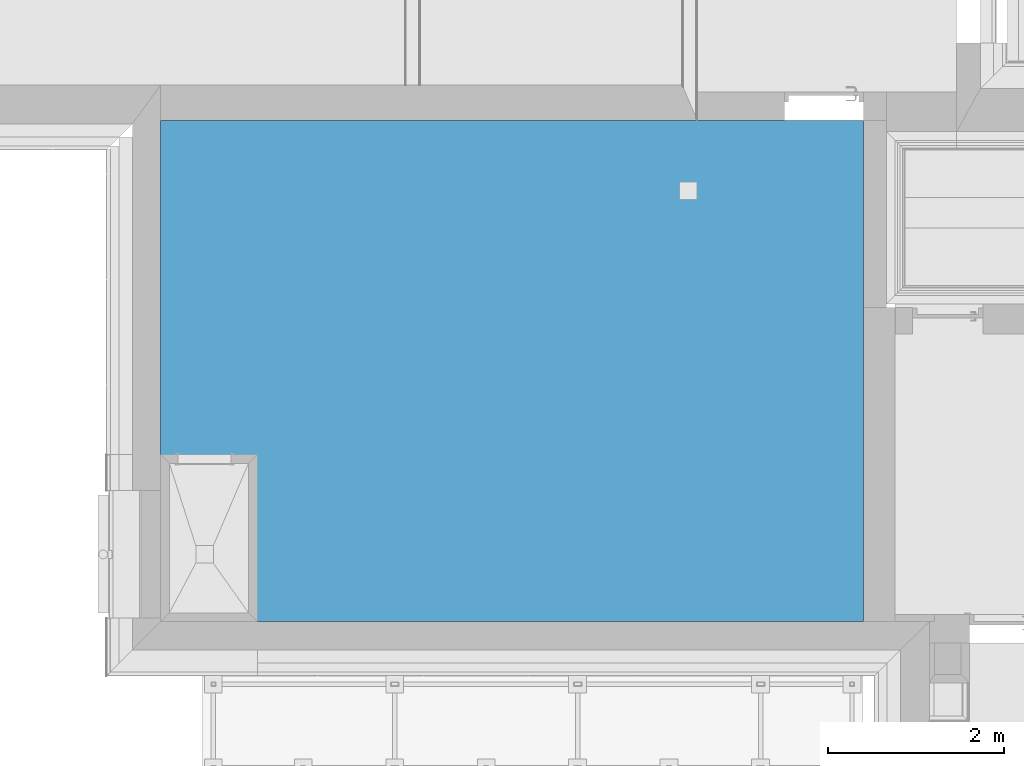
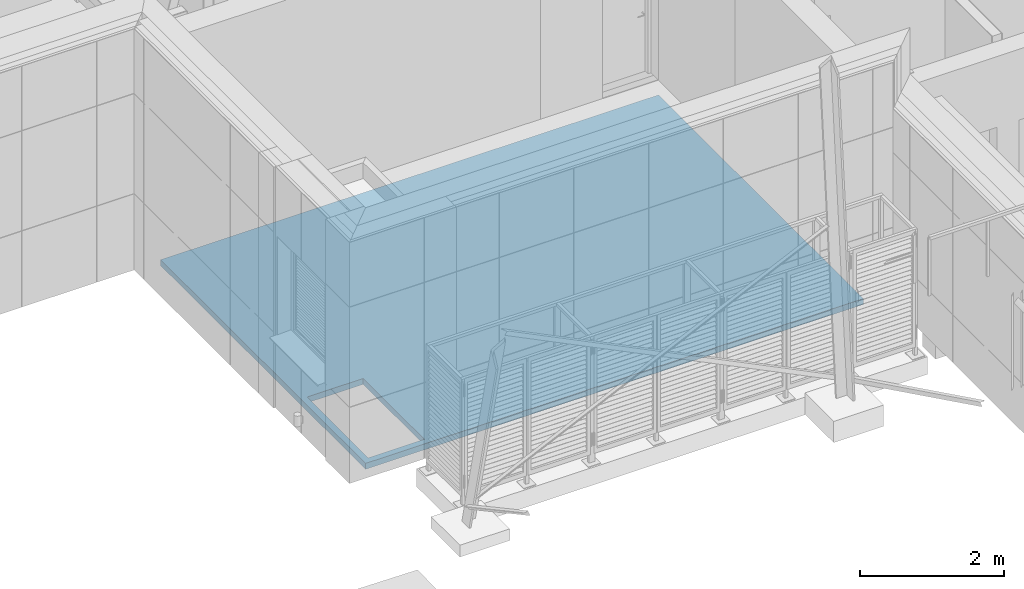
# One storey, part 114 of 418: 1 building element part, 1 opening, 1 element without a shape of its own.
"""IFC2X3 building model written with IfcOpenShell, lengths in millimetres."""

import ifcopenshell
import ifcopenshell.guid

model = None  # the IFC model being written
_history = None  # IfcOwnerHistory: only IFC2X3 demands one
_inside = {}  # id of a spatial element -> (the spatial element, [elements in it])
_under = {}  # id of a project, library or spatial element -> (it, [spatial elements below it])
_declared = {}  # id of a project -> (the project, [libraries it declares])
_typed = {}  # id of a type object -> (the type object, [elements of that type])
_made_of = {}  # id of a material, layer set ... -> (it, [elements and type objects made of it])


def new_model(schema):
    """Start an empty IFC model of exactly this schema.

    Asked for "IFC4X3", IfcOpenShell would pick the latest addendum, in which some entities
    have other attributes; the version numbers below select the first issue.
    IFC2X3 requires an IfcOwnerHistory on every rooted entity: one is made here for all.
    """
    global model, _history
    if schema == "IFC4X3":
        model = ifcopenshell.file(schema_version=(4, 3, 0, 0))
    else:
        model = ifcopenshell.file(schema=schema)
    _inside.clear()
    _under.clear()
    _declared.clear()
    _typed.clear()
    _made_of.clear()
    _history = None
    if model.schema == "IFC2X3":
        org = make("IfcOrganization", Name="unknown")
        user = make(
            "IfcPersonAndOrganization",
            ThePerson=make("IfcPerson", FamilyName="unknown"),
            TheOrganization=org,
        )
        app = make(
            "IfcApplication",
            ApplicationDeveloper=org,
            Version="unknown",
            ApplicationFullName="unknown",
            ApplicationIdentifier="unknown",
        )
        _history = make(
            "IfcOwnerHistory",
            OwningUser=user,
            OwningApplication=app,
            ChangeAction="ADDED",
            CreationDate=0,
        )
    return model


def make(cls, **values):
    """One entity of the class cls with the attributes given. An attribute that is None is left unset."""
    return model.create_entity(
        cls, **{name: value for name, value in values.items() if value is not None}
    )


def entity(cls, *values):
    """Any entity or typed value of the class cls, its attributes in the order of the schema. None: left unset."""
    e = model.create_entity(cls)
    for i, value in enumerate(values):
        if value is not None:
            e[i] = value
    return e


def rooted(cls, **values):
    """An entity with a GlobalId (a new one), such as an element, a storey or a relation."""
    return make(cls, GlobalId=ifcopenshell.guid.new(), OwnerHistory=_history, **values)


def si_unit(unit_type, name, prefix=None):
    """IfcSIUnit, for example si_unit("LENGTHUNIT", "METRE", prefix="MILLI")."""
    return make("IfcSIUnit", UnitType=unit_type, Prefix=prefix, Name=name)


def converted_unit(unit_type, name, factor, base, dimensions=None, offset=None):
    """IfcConversionBasedUnit, such as the inch: factor (a typed value) times the base unit."""
    return make(
        "IfcConversionBasedUnit"
        if offset is None
        else "IfcConversionBasedUnitWithOffset",
        ConversionOffset=offset,
        Dimensions=None
        if dimensions is None
        else entity("IfcDimensionalExponents", *dimensions),
        UnitType=unit_type,
        Name=name,
        ConversionFactor=make(
            "IfcMeasureWithUnit", ValueComponent=factor, UnitComponent=base
        ),
    )


def derived_unit(unit_type, elements):
    """IfcDerivedUnit: a product of units, each with its exponent."""
    return make(
        "IfcDerivedUnit",
        Elements=[
            make("IfcDerivedUnitElement", Unit=unit, Exponent=power)
            for unit, power in elements
        ],
        UnitType=unit_type,
    )


def money_unit(currency):
    """IfcMonetaryUnit."""
    return make("IfcMonetaryUnit", Currency=currency)


def assignment(units):
    """IfcUnitAssignment: the units of a project."""
    return None if units is None else make("IfcUnitAssignment", Units=units)


def point(xyz):
    """IfcCartesianPoint."""
    return None if xyz is None else make("IfcCartesianPoint", Coordinates=xyz)


def direction(xyz):
    """IfcDirection."""
    return None if xyz is None else make("IfcDirection", DirectionRatios=xyz)


def frame(location, z_axis=None, x_axis=None):
    """IfcAxis2Placement3D, a coordinate frame: its origin and axes. An axis left out is left unset."""
    return make(
        "IfcAxis2Placement3D",
        Location=point(location),
        Axis=direction(z_axis),
        RefDirection=direction(x_axis),
    )


def origin_with_axes():
    """The frame at (0, 0, 0) with the z axis (0, 0, 1) and the x axis (1, 0, 0) written out."""
    return frame((0.0, 0.0, 0.0), z_axis=(0.0, 0.0, 1.0), x_axis=(1.0, 0.0, 0.0))


def place(relative_to, where):
    """IfcLocalPlacement: puts the frame where relative to a parent placement (None: the world)."""
    return make(
        "IfcLocalPlacement", PlacementRelTo=relative_to, RelativePlacement=where
    )


def context(
    kind, dimensions, precision=None, world=None, true_north=None, identifier=None
):
    """IfcGeometricRepresentationContext, for example the 3D "Model" context."""
    return make(
        "IfcGeometricRepresentationContext",
        ContextIdentifier=identifier,
        ContextType=kind,
        CoordinateSpaceDimension=dimensions,
        Precision=precision,
        WorldCoordinateSystem=world,
        TrueNorth=true_north,
    )


def subcontext(parent, identifier, kind, view, scale=None):
    """IfcGeometricRepresentationSubContext, for example "Body" below "Model"."""
    return make(
        "IfcGeometricRepresentationSubContext",
        ContextIdentifier=identifier,
        ContextType=kind,
        ParentContext=parent,
        TargetScale=scale,
        TargetView=view,
    )


def project(units=None, contexts=None):
    """IfcProject with its units and contexts."""
    return rooted(
        "IfcProject",
        Name="project",
        RepresentationContexts=contexts,
        UnitsInContext=assignment(units),
    )


def spatial(cls, under=None, at=None, **own):
    """A site, building, storey or space (cls), placed at a placement, below another one or the project."""
    s = rooted(cls, ObjectPlacement=at, **own)
    if under is not None:
        _under.setdefault(under.id(), (under, []))[1].append(s)
    return s


def polyline(points):
    """IfcPolyline through the points."""
    return make("IfcPolyline", Points=[point(p) for p in points])


def outline(outer, holes=None, kind="AREA"):
    """IfcArbitraryClosedProfileDef: a profile drawn as a closed curve; with holes, ...WithVoids."""
    if holes is None:
        return make("IfcArbitraryClosedProfileDef", ProfileType=kind, OuterCurve=outer)
    return make(
        "IfcArbitraryProfileDefWithVoids",
        ProfileType=kind,
        OuterCurve=outer,
        InnerCurves=holes,
    )


def extrude(swept, where, along, depth):
    """IfcExtrudedAreaSolid: the profile swept, set in the frame where, extruded along a direction by depth."""
    return make(
        "IfcExtrudedAreaSolid",
        SweptArea=swept,
        Position=where,
        ExtrudedDirection=direction(along),
        Depth=depth,
    )


def boolean(op, a, b):
    """IfcBooleanResult of two solids."""
    return make("IfcBooleanResult", Operator=op, FirstOperand=a, SecondOperand=b)


def faces_of(points, faces, orient=None, outer=None):
    """IfcFace entities. A face is a list of loops; a loop is a list of indices into points, from 0.

    orient and outer hold one flag for each loop. By default every Orientation is true, the
    first loop of a face is its IfcFaceOuterBound and the others are IfcFaceBound.
    """
    made = []
    for i, loops in enumerate(faces):
        bounds = []
        for j, loop in enumerate(loops):
            is_outer = j == 0 if outer is None else outer[i][j]
            bounds.append(
                make(
                    "IfcFaceOuterBound" if is_outer else "IfcFaceBound",
                    Bound=make("IfcPolyLoop", Polygon=[points[k] for k in loop]),
                    Orientation=True if orient is None else orient[i][j],
                )
            )
        made.append(make("IfcFace", Bounds=bounds))
    return made


def faceted_brep(points, faces, orient=None, outer=None, voids=None):
    """IfcFacetedBrep: a solid bounded by flat faces; with voids (closed shells), ...WithVoids."""
    shared = [point(p) for p in points]
    hull = make("IfcClosedShell", CfsFaces=faces_of(shared, faces, orient, outer))
    if voids is None:
        return make("IfcFacetedBrep", Outer=hull)
    return make(
        "IfcFacetedBrepWithVoids",
        Outer=hull,
        Voids=[
            make(cls, CfsFaces=faces_of(shared, fs, o, b)) for cls, fs, o, b in voids
        ],
    )


def shape(context_of_items, identifier, shape_type, items):
    """IfcShapeRepresentation: the items that make up one representation, for example the "Body"."""
    return make(
        "IfcShapeRepresentation",
        ContextOfItems=context_of_items,
        RepresentationIdentifier=identifier,
        RepresentationType=shape_type,
        Items=items,
    )


def material(Name=None, Category=None):
    """IfcMaterial."""
    return make("IfcMaterial", Name=Name, Category=Category)


def made_of(thing, what):
    """Note that an element or type object is made of a material, layer set ...; save() writes the relation."""
    if what is not None:
        _made_of.setdefault(what.id(), (what, []))[1].append(thing)
    return thing


def type_object(cls, material=None, **own):
    """A type object (cls), such as IfcWallType, which elements share."""
    return made_of(rooted(cls, **own), material)


def element(
    cls,
    number,
    at=None,
    inside=None,
    cuts=None,
    type_object=None,
    material=None,
    context=None,
    identifier="Body",
    shape_type=None,
    held_by="IfcProductDefinitionShape",
    body=None,
    shapes=None,
    **own,
):
    """One element of the class cls, such as IfcWall. Its Tag is "e" and its number.

    at: its placement. inside: the storey or other place that contains it. cuts: it is an
    opening in that element (IfcRelVoidsElement). A single representation is given by context,
    identifier, shape_type and body (its items); several are given by shapes. held_by: the class
    of the entity that holds the representations. save() writes the other relations.
    """
    e = rooted(cls, Tag="e%d" % number, ObjectPlacement=at, **own)
    if body is not None:
        shapes = [shape(context, identifier, shape_type, body)]
    if shapes is not None:
        e.Representation = make(held_by, Representations=shapes)
    if inside is not None:
        _inside.setdefault(inside.id(), (inside, []))[1].append(e)
    if cuts is not None:
        rooted(
            "IfcRelVoidsElement", RelatingBuildingElement=cuts, RelatedOpeningElement=e
        )
    if type_object is not None:
        _typed.setdefault(type_object.id(), (type_object, []))[1].append(e)
    return made_of(e, material)


def aggregate(whole, parts):
    """IfcRelAggregates: a whole, such as a stair, and the parts it consists of."""
    return rooted("IfcRelAggregates", RelatingObject=whole, RelatedObjects=parts)


def save(model, path):
    """Write the relations noted so far, then the file.

    IfcRelAggregates (storeys below a building ...), IfcRelContainedInSpatialStructure (elements
    in a storey), IfcRelDefinesByType, IfcRelAssociatesMaterial and IfcRelDeclares: one each for
    every whole, place, type object, material and project.
    """
    for whole, parts in _under.values():
        aggregate(whole, parts)
    for where, things in _inside.values():
        rooted(
            "IfcRelContainedInSpatialStructure",
            RelatedElements=things,
            RelatingStructure=where,
        )
    for kind, things in _typed.values():
        rooted("IfcRelDefinesByType", RelatedObjects=things, RelatingType=kind)
    for what, things in _made_of.values():
        rooted("IfcRelAssociatesMaterial", RelatedObjects=things, RelatingMaterial=what)
    for by, libraries in _declared.values():
        rooted("IfcRelDeclares", RelatingContext=by, RelatedDefinitions=libraries)
    model.write(path)


model = new_model("IFC2X3")

# Units and contexts
model_context = context("Model", 3, precision=0.01, world=origin_with_axes(), true_north=direction((0.0, 1.0)))
body_context = subcontext(model_context, "Body", "Model", "MODEL_VIEW")
ifc_project = project(units=[si_unit("LENGTHUNIT", "METRE", prefix="MILLI"), si_unit("AREAUNIT", "SQUARE_METRE"), si_unit("VOLUMEUNIT", "CUBIC_METRE"), converted_unit("PLANEANGLEUNIT", "DEGREE", entity("IfcPlaneAngleMeasure", 0.0174532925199), si_unit("PLANEANGLEUNIT", "RADIAN"), dimensions=[0, 0, 0, 0, 0, 0, 0]), si_unit("SOLIDANGLEUNIT", "STERADIAN"), money_unit("EUR"), converted_unit("TIMEUNIT", "Year", entity("IfcTimeMeasure", 31556926.0), si_unit("TIMEUNIT", "SECOND"), dimensions=[0, 0, 1, 0, 0, 0, 0]), si_unit("MASSUNIT", "GRAM", prefix="KILO"), si_unit("THERMODYNAMICTEMPERATUREUNIT", "DEGREE_CELSIUS"), si_unit("LUMINOUSINTENSITYUNIT", "LUMEN"), si_unit("ENERGYUNIT", "JOULE", prefix="MEGA"), derived_unit("THERMALCONDUCTANCEUNIT", [(si_unit("POWERUNIT", "WATT"), 1), (si_unit("LENGTHUNIT", "METRE"), -1), (si_unit("THERMODYNAMICTEMPERATUREUNIT", "KELVIN"), -1)]), derived_unit("SPECIFICHEATCAPACITYUNIT", [(si_unit("ENERGYUNIT", "JOULE"), 1), (si_unit("MASSUNIT", "GRAM", prefix="KILO"), -1), (si_unit("THERMODYNAMICTEMPERATUREUNIT", "KELVIN"), -1)]), derived_unit("MASSDENSITYUNIT", [(si_unit("MASSUNIT", "GRAM", prefix="KILO"), 1), (si_unit("VOLUMEUNIT", "CUBIC_METRE"), -1)])], contexts=[model_context])

# Site, building, storey
site_placement = place(None, origin_with_axes())
site = spatial("IfcSite", under=ifc_project, at=site_placement, Name="Paldiski mnt 245/1, Tallinn, Harjumaa", CompositionType="COMPLEX")
building_placement = place(site_placement, origin_with_axes())
building = spatial("IfcBuilding", under=site, at=building_placement, Name="RKAS Hoone üldnimetus (kasutust iseloomustav) -> IFC Project Manager -> SOLIBRI", CompositionType="ELEMENT")
storey_placement = place(building_placement, origin_with_axes())
storey = spatial("IfcBuildingStorey", under=building, at=storey_placement, Name="Esimene korrus", CompositionType="ELEMENT", Elevation=0.0)

# Slab, opening, building element part
slab_type = type_object("IfcSlabType", Name="AP-01 350", PredefinedType="NOTDEFINED")
slab_placement = place(storey_placement, frame((-56390.0, 130.000000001, 0.0), z_axis=(0.0, 0.0, 1.0), x_axis=(1.0, 0.0, 0.0)))
slab = element("IfcSlab", 1, at=slab_placement, inside=storey, type_object=slab_type, Name="AP-01", PredefinedType="NOTDEFINED")
opening_placement = place(slab_placement, frame((100.0, 1799.99992126, 0.0), z_axis=(0.0, 0.0, 1.0), x_axis=(0.0, -1.0, 0.0)))
element("IfcOpeningElement", 2, at=opening_placement, cuts=slab, Name="Slab Opening", context=body_context, shape_type="SweptSolid", body=[
    extrude(outline(polyline([(0.0, 0.0), (1699.99992126, 0.0), (1699.99992126, 900.000023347), (0.0, 900.000023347), (0.0, 0.0)])), frame((0.0, 0.0, -350.0), z_axis=(0.0, 0.0, 1.0), x_axis=(1.0, 0.0, 0.0)), (0.0, 0.0, 1.0), 350.0),
])
ifc_material = material(Name="EPS 200")
building_element_part_placement = place(slab_placement, origin_with_axes())
building_element_part = element("IfcBuildingElementPart", 3, at=building_element_part_placement, material=ifc_material, Name="EPS 200", context=body_context, shape_type="CSG", body=[
    boolean("DIFFERENCE", extrude(outline(polyline([(0.0, 0.0), (7990.0, -1.84741111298e-10), (7990.0, 5700.0), (1.42108547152e-10, 5700.0), (0.0, 0.0)])), frame((0.0, 0.0, -350.0), z_axis=(0.0, 0.0, 1.0), x_axis=(1.0, 0.0, 0.0)), (0.0, 0.0, 1.0), 100.0), faceted_brep([(5900.0, 4796.74087395, 0.0), (6100.0, 4796.74087395, 0.0), (6100.0, 4996.74087395, 0.0), (5900.0, 4996.74087395, 0.0), (5900.0, 4796.74087395, -15.0), (6100.0, 4796.74087395, -15.0), (6100.0, 4996.74087395, -15.0), (5900.0, 4996.74087395, -15.0), (5904.0, 4800.74087395, -15.0), (5924.5, 4800.74087395, -15.0), (5924.5, 4821.24087395, -15.0), (5924.5, 4825.24087395, -15.0), (5924.5, 4845.74087395, -15.0), (5924.5, 4849.74087395, -15.0), (5924.5, 4870.24087395, -15.0), (5924.5, 4874.24087395, -15.0), (5924.5, 4894.74087395, -15.0), (5924.5, 4898.74087395, -15.0), (5924.5, 4919.24087395, -15.0), (5924.5, 4923.24087395, -15.0), (5924.5, 4943.74087395, -15.0), (5924.5, 4947.74087395, -15.0), (5924.5, 4968.24087395, -15.0), (5924.5, 4972.24087395, -15.0), (5924.5, 4992.74087395, -15.0), (5928.5, 4992.74087395, -15.0), (5928.5, 4972.24087395, -15.0), (5928.5, 4968.24087395, -15.0), (5928.5, 4947.74087395, -15.0), (5928.5, 4943.74087395, -15.0), (5928.5, 4923.24087395, -15.0), (5928.5, 4919.24087395, -15.0), (5928.5, 4898.74087395, -15.0), (5928.5, 4894.74087395, -15.0), (5928.5, 4874.24087395, -15.0), (5928.5, 4870.24087395, -15.0), (5928.5, 4849.74087395, -15.0), (5928.5, 4845.74087395, -15.0), (5928.5, 4825.24087395, -15.0), (5928.5, 4821.24087395, -15.0), (5928.5, 4800.74087395, -15.0), (5949.0, 4800.74087395, -15.0), (5949.0, 4821.24087395, -15.0), (5949.0, 4825.24087395, -15.0), (5949.0, 4845.74087395, -15.0), (5949.0, 4849.74087395, -15.0), (5949.0, 4870.24087395, -15.0), (5949.0, 4874.24087395, -15.0), (5949.0, 4894.74087395, -15.0), (5949.0, 4898.74087395, -15.0), (5949.0, 4919.24087395, -15.0), (5949.0, 4923.24087395, -15.0), (5949.0, 4943.74087395, -15.0), (5949.0, 4947.74087395, -15.0), (5949.0, 4968.24087395, -15.0), (5949.0, 4972.24087395, -15.0), (5949.0, 4992.74087395, -15.0), (5953.0, 4992.74087395, -15.0), (5953.0, 4972.24087395, -15.0), (5953.0, 4968.24087395, -15.0), (5953.0, 4947.74087395, -15.0), (5953.0, 4943.74087395, -15.0), (5953.0, 4923.24087395, -15.0), (5953.0, 4919.24087395, -15.0), (5953.0, 4898.74087395, -15.0), (5953.0, 4894.74087395, -15.0), (5953.0, 4874.24087395, -15.0), (5953.0, 4870.24087395, -15.0), (5953.0, 4849.74087395, -15.0), (5953.0, 4845.74087395, -15.0), (5953.0, 4825.24087395, -15.0), (5953.0, 4821.24087395, -15.0), (5953.0, 4800.74087395, -15.0), (5973.5, 4800.74087395, -15.0), (5973.5, 4821.24087395, -15.0), (5973.5, 4825.24087395, -15.0), (5973.5, 4845.74087395, -15.0), (5973.5, 4849.74087395, -15.0), (5973.5, 4870.24087395, -15.0), (5973.5, 4874.24087395, -15.0), (5973.5, 4894.74087395, -15.0), (5973.5, 4898.74087395, -15.0), (5973.5, 4919.24087395, -15.0), (5973.5, 4923.24087395, -15.0), (5973.5, 4943.74087395, -15.0), (5973.5, 4947.74087395, -15.0), (5973.5, 4968.24087395, -15.0), (5973.5, 4972.24087395, -15.0), (5973.5, 4992.74087395, -15.0), (5977.5, 4992.74087395, -15.0), (5977.5, 4972.24087395, -15.0), (5977.5, 4968.24087395, -15.0), (5977.5, 4947.74087395, -15.0), (5977.5, 4943.74087395, -15.0), (5977.5, 4923.24087395, -15.0), (5977.5, 4919.24087395, -15.0), (5977.5, 4898.74087395, -15.0), (5977.5, 4894.74087395, -15.0), (5977.5, 4874.24087395, -15.0), (5977.5, 4870.24087395, -15.0), (5977.5, 4849.74087395, -15.0), (5977.5, 4845.74087395, -15.0), (5977.5, 4825.24087395, -15.0), (5977.5, 4821.24087395, -15.0), (5977.5, 4800.74087395, -15.0), (5998.0, 4800.74087395, -15.0), (5998.0, 4821.24087395, -15.0), (5998.0, 4825.24087395, -15.0), (5998.0, 4845.74087395, -15.0), (5998.0, 4849.74087395, -15.0), (5998.0, 4870.24087395, -15.0), (5998.0, 4874.24087395, -15.0), (5998.0, 4894.74087395, -15.0), (5998.0, 4898.74087395, -15.0), (5998.0, 4919.24087395, -15.0), (5998.0, 4923.24087395, -15.0), (5998.0, 4943.74087395, -15.0), (5998.0, 4947.74087395, -15.0), (5998.0, 4968.24087395, -15.0), (5998.0, 4972.24087395, -15.0), (5998.0, 4992.74087395, -15.0), (6002.0, 4992.74087395, -15.0), (6002.0, 4972.24087395, -15.0), (6002.0, 4968.24087395, -15.0), (6002.0, 4947.74087395, -15.0), (6002.0, 4943.74087395, -15.0), (6002.0, 4923.24087395, -15.0), (6002.0, 4919.24087395, -15.0), (6002.0, 4898.74087395, -15.0), (6002.0, 4894.74087395, -15.0), (6002.0, 4874.24087395, -15.0), (6002.0, 4870.24087395, -15.0), (6002.0, 4849.74087395, -15.0), (6002.0, 4845.74087395, -15.0), (6002.0, 4825.24087395, -15.0), (6002.0, 4821.24087395, -15.0), (6002.0, 4800.74087395, -15.0), (6022.5, 4800.74087395, -15.0), (6022.5, 4821.24087395, -15.0), (6022.5, 4825.24087395, -15.0), (6022.5, 4845.74087395, -15.0), (6022.5, 4849.74087395, -15.0), (6022.5, 4870.24087395, -15.0), (6022.5, 4874.24087395, -15.0), (6022.5, 4894.74087395, -15.0), (6022.5, 4898.74087395, -15.0), (6022.5, 4919.24087395, -15.0), (6022.5, 4923.24087395, -15.0), (6022.5, 4943.74087395, -15.0), (6022.5, 4947.74087395, -15.0), (6022.5, 4968.24087395, -15.0), (6022.5, 4972.24087395, -15.0), (6022.5, 4992.74087395, -15.0), (6026.5, 4992.74087395, -15.0), (6026.5, 4972.24087395, -15.0), (6026.5, 4968.24087395, -15.0), (6026.5, 4947.74087395, -15.0), (6026.5, 4943.74087395, -15.0), (6026.5, 4923.24087395, -15.0), (6026.5, 4919.24087395, -15.0), (6026.5, 4898.74087395, -15.0), (6026.5, 4894.74087395, -15.0), (6026.5, 4874.24087395, -15.0), (6026.5, 4870.24087395, -15.0), (6026.5, 4849.74087395, -15.0), (6026.5, 4845.74087395, -15.0), (6026.5, 4825.24087395, -15.0), (6026.5, 4821.24087395, -15.0), (6026.5, 4800.74087395, -15.0), (6047.0, 4800.74087395, -15.0), (6047.0, 4821.24087395, -15.0), (6047.0, 4825.24087395, -15.0), (6047.0, 4845.74087395, -15.0), (6047.0, 4849.74087395, -15.0), (6047.0, 4870.24087395, -15.0), (6047.0, 4874.24087395, -15.0), (6047.0, 4894.74087395, -15.0), (6047.0, 4898.74087395, -15.0), (6047.0, 4919.24087395, -15.0), (6047.0, 4923.24087395, -15.0), (6047.0, 4943.74087395, -15.0), (6047.0, 4947.74087395, -15.0), (6047.0, 4968.24087395, -15.0), (6047.0, 4972.24087395, -15.0), (6047.0, 4992.74087395, -15.0), (6051.0, 4992.74087395, -15.0), (6051.0, 4972.24087395, -15.0), (6051.0, 4968.24087395, -15.0), (6051.0, 4947.74087395, -15.0), (6051.0, 4943.74087395, -15.0), (6051.0, 4923.24087395, -15.0), (6051.0, 4919.24087395, -15.0), (6051.0, 4898.74087395, -15.0), (6051.0, 4894.74087395, -15.0), (6051.0, 4874.24087395, -15.0), (6051.0, 4870.24087395, -15.0), (6051.0, 4849.74087395, -15.0), (6051.0, 4845.74087395, -15.0), (6051.0, 4825.24087395, -15.0), (6051.0, 4821.24087395, -15.0), (6051.0, 4800.74087395, -15.0), (6071.5, 4800.74087395, -15.0), (6071.5, 4821.24087395, -15.0), (6071.5, 4825.24087395, -15.0), (6071.5, 4845.74087395, -15.0), (6071.5, 4849.74087395, -15.0), (6071.5, 4870.24087395, -15.0), (6071.5, 4874.24087395, -15.0), (6071.5, 4894.74087395, -15.0), (6071.5, 4898.74087395, -15.0), (6071.5, 4919.24087395, -15.0), (6071.5, 4923.24087395, -15.0), (6071.5, 4943.74087395, -15.0), (6071.5, 4947.74087395, -15.0), (6071.5, 4968.24087395, -15.0), (6071.5, 4972.24087395, -15.0), (6071.5, 4992.74087395, -15.0), (6075.5, 4992.74087395, -15.0), (6075.5, 4972.24087395, -15.0), (6075.5, 4968.24087395, -15.0), (6075.5, 4947.74087395, -15.0), (6075.5, 4943.74087395, -15.0), (6075.5, 4923.24087395, -15.0), (6075.5, 4919.24087395, -15.0), (6075.5, 4898.74087395, -15.0), (6075.5, 4894.74087395, -15.0), (6075.5, 4874.24087395, -15.0), (6075.5, 4870.24087395, -15.0), (6075.5, 4849.74087395, -15.0), (6075.5, 4845.74087395, -15.0), (6075.5, 4825.24087395, -15.0), (6075.5, 4821.24087395, -15.0), (6075.5, 4800.74087395, -15.0), (6096.0, 4800.74087395, -15.0), (6096.0, 4821.24087395, -15.0), (6096.0, 4825.24087395, -15.0), (6096.0, 4845.74087395, -15.0), (6096.0, 4849.74087395, -15.0), (6096.0, 4870.24087395, -15.0), (6096.0, 4874.24087395, -15.0), (6096.0, 4894.74087395, -15.0), (6096.0, 4898.74087395, -15.0), (6096.0, 4919.24087395, -15.0), (6096.0, 4923.24087395, -15.0), (6096.0, 4943.74087395, -15.0), (6096.0, 4947.74087395, -15.0), (6096.0, 4968.24087395, -15.0), (6096.0, 4972.24087395, -15.0), (6096.0, 4992.74087395, -15.0), (5904.0, 4992.74087395, -15.0), (5904.0, 4972.24087395, -15.0), (5904.0, 4968.24087395, -15.0), (5904.0, 4947.74087395, -15.0), (5904.0, 4943.74087395, -15.0), (5904.0, 4923.24087395, -15.0), (5904.0, 4919.24087395, -15.0), (5904.0, 4898.74087395, -15.0), (5904.0, 4894.74087395, -15.0), (5904.0, 4874.24087395, -15.0), (5904.0, 4870.24087395, -15.0), (5904.0, 4849.74087395, -15.0), (5904.0, 4845.74087395, -15.0), (5904.0, 4825.24087395, -15.0), (5904.0, 4821.24087395, -15.0), (5904.0, 4800.74087395, -13.85), (5924.5, 4800.74087395, -13.85), (5924.5, 4821.24087395, -13.85), (5924.5, 4825.24087395, -13.85), (5924.5, 4845.74087395, -13.85), (5924.5, 4849.74087395, -13.85), (5924.5, 4870.24087395, -13.85), (5924.5, 4874.24087395, -13.85), (5924.5, 4894.74087395, -13.85), (5924.5, 4898.74087395, -13.85), (5924.5, 4919.24087395, -13.85), (5924.5, 4923.24087395, -13.85), (5924.5, 4943.74087395, -13.85), (5924.5, 4947.74087395, -13.85), (5924.5, 4968.24087395, -13.85), (5924.5, 4972.24087395, -13.85), (5924.5, 4992.74087395, -13.85), (5928.5, 4992.74087395, -13.85), (5928.5, 4972.24087395, -13.85), (5928.5, 4968.24087395, -13.85), (5928.5, 4947.74087395, -13.85), (5928.5, 4943.74087395, -13.85), (5928.5, 4923.24087395, -13.85), (5928.5, 4919.24087395, -13.85), (5928.5, 4898.74087395, -13.85), (5928.5, 4894.74087395, -13.85), (5928.5, 4874.24087395, -13.85), (5928.5, 4870.24087395, -13.85), (5928.5, 4849.74087395, -13.85), (5928.5, 4845.74087395, -13.85), (5928.5, 4825.24087395, -13.85), (5928.5, 4821.24087395, -13.85), (5928.5, 4800.74087395, -13.85), (5949.0, 4800.74087395, -13.85), (5949.0, 4821.24087395, -13.85), (5949.0, 4825.24087395, -13.85), (5949.0, 4845.74087395, -13.85), (5949.0, 4849.74087395, -13.85), (5949.0, 4870.24087395, -13.85), (5949.0, 4874.24087395, -13.85), (5949.0, 4894.74087395, -13.85), (5949.0, 4898.74087395, -13.85), (5949.0, 4919.24087395, -13.85), (5949.0, 4923.24087395, -13.85), (5949.0, 4943.74087395, -13.85), (5949.0, 4947.74087395, -13.85), (5949.0, 4968.24087395, -13.85), (5949.0, 4972.24087395, -13.85), (5949.0, 4992.74087395, -13.85), (5953.0, 4992.74087395, -13.85), (5953.0, 4972.24087395, -13.85), (5953.0, 4968.24087395, -13.85), (5953.0, 4947.74087395, -13.85), (5953.0, 4943.74087395, -13.85), (5953.0, 4923.24087395, -13.85), (5953.0, 4919.24087395, -13.85), (5953.0, 4898.74087395, -13.85), (5953.0, 4894.74087395, -13.85), (5953.0, 4874.24087395, -13.85), (5953.0, 4870.24087395, -13.85), (5953.0, 4849.74087395, -13.85), (5953.0, 4845.74087395, -13.85), (5953.0, 4825.24087395, -13.85), (5953.0, 4821.24087395, -13.85), (5953.0, 4800.74087395, -13.85), (5973.5, 4800.74087395, -13.85), (5973.5, 4821.24087395, -13.85), (5973.5, 4825.24087395, -13.85), (5973.5, 4845.74087395, -13.85), (5973.5, 4849.74087395, -13.85), (5973.5, 4870.24087395, -13.85), (5973.5, 4874.24087395, -13.85), (5973.5, 4894.74087395, -13.85), (5973.5, 4898.74087395, -13.85), (5973.5, 4919.24087395, -13.85), (5973.5, 4923.24087395, -13.85), (5973.5, 4943.74087395, -13.85), (5973.5, 4947.74087395, -13.85), (5973.5, 4968.24087395, -13.85), (5973.5, 4972.24087395, -13.85), (5973.5, 4992.74087395, -13.85), (5977.5, 4992.74087395, -13.85), (5977.5, 4972.24087395, -13.85), (5977.5, 4968.24087395, -13.85), (5977.5, 4947.74087395, -13.85), (5977.5, 4943.74087395, -13.85), (5977.5, 4923.24087395, -13.85), (5977.5, 4919.24087395, -13.85), (5977.5, 4898.74087395, -13.85), (5977.5, 4894.74087395, -13.85), (5977.5, 4874.24087395, -13.85), (5977.5, 4870.24087395, -13.85), (5977.5, 4849.74087395, -13.85), (5977.5, 4845.74087395, -13.85), (5977.5, 4825.24087395, -13.85), (5977.5, 4821.24087395, -13.85), (5977.5, 4800.74087395, -13.85), (5998.0, 4800.74087395, -13.85), (5998.0, 4821.24087395, -13.85), (5998.0, 4825.24087395, -13.85), (5998.0, 4845.74087395, -13.85), (5998.0, 4849.74087395, -13.85), (5998.0, 4870.24087395, -13.85), (5998.0, 4874.24087395, -13.85), (5998.0, 4894.74087395, -13.85), (5998.0, 4898.74087395, -13.85), (5998.0, 4919.24087395, -13.85), (5998.0, 4923.24087395, -13.85), (5998.0, 4943.74087395, -13.85), (5998.0, 4947.74087395, -13.85), (5998.0, 4968.24087395, -13.85), (5998.0, 4972.24087395, -13.85), (5998.0, 4992.74087395, -13.85), (6002.0, 4992.74087395, -13.85), (6002.0, 4972.24087395, -13.85), (6002.0, 4968.24087395, -13.85), (6002.0, 4947.74087395, -13.85), (6002.0, 4943.74087395, -13.85), (6002.0, 4923.24087395, -13.85), (6002.0, 4919.24087395, -13.85), (6002.0, 4898.74087395, -13.85), (6002.0, 4894.74087395, -13.85), (6002.0, 4874.24087395, -13.85), (6002.0, 4870.24087395, -13.85), (6002.0, 4849.74087395, -13.85), (6002.0, 4845.74087395, -13.85), (6002.0, 4825.24087395, -13.85), (6002.0, 4821.24087395, -13.85), (6002.0, 4800.74087395, -13.85), (6022.5, 4800.74087395, -13.85), (6022.5, 4821.24087395, -13.85), (6022.5, 4825.24087395, -13.85), (6022.5, 4845.74087395, -13.85), (6022.5, 4849.74087395, -13.85), (6022.5, 4870.24087395, -13.85), (6022.5, 4874.24087395, -13.85), (6022.5, 4894.74087395, -13.85), (6022.5, 4898.74087395, -13.85), (6022.5, 4919.24087395, -13.85), (6022.5, 4923.24087395, -13.85), (6022.5, 4943.74087395, -13.85), (6022.5, 4947.74087395, -13.85), (6022.5, 4968.24087395, -13.85), (6022.5, 4972.24087395, -13.85), (6022.5, 4992.74087395, -13.85), (6026.5, 4992.74087395, -13.85), (6026.5, 4972.24087395, -13.85), (6026.5, 4968.24087395, -13.85), (6026.5, 4947.74087395, -13.85), (6026.5, 4943.74087395, -13.85), (6026.5, 4923.24087395, -13.85), (6026.5, 4919.24087395, -13.85), (6026.5, 4898.74087395, -13.85), (6026.5, 4894.74087395, -13.85), (6026.5, 4874.24087395, -13.85), (6026.5, 4870.24087395, -13.85), (6026.5, 4849.74087395, -13.85), (6026.5, 4845.74087395, -13.85), (6026.5, 4825.24087395, -13.85), (6026.5, 4821.24087395, -13.85), (6026.5, 4800.74087395, -13.85), (6047.0, 4800.74087395, -13.85), (6047.0, 4821.24087395, -13.85), (6047.0, 4825.24087395, -13.85), (6047.0, 4845.74087395, -13.85), (6047.0, 4849.74087395, -13.85), (6047.0, 4870.24087395, -13.85), (6047.0, 4874.24087395, -13.85), (6047.0, 4894.74087395, -13.85), (6047.0, 4898.74087395, -13.85), (6047.0, 4919.24087395, -13.85), (6047.0, 4923.24087395, -13.85), (6047.0, 4943.74087395, -13.85), (6047.0, 4947.74087395, -13.85), (6047.0, 4968.24087395, -13.85), (6047.0, 4972.24087395, -13.85), (6047.0, 4992.74087395, -13.85), (6051.0, 4992.74087395, -13.85), (6051.0, 4972.24087395, -13.85), (6051.0, 4968.24087395, -13.85), (6051.0, 4947.74087395, -13.85), (6051.0, 4943.74087395, -13.85), (6051.0, 4923.24087395, -13.85), (6051.0, 4919.24087395, -13.85), (6051.0, 4898.74087395, -13.85), (6051.0, 4894.74087395, -13.85), (6051.0, 4874.24087395, -13.85), (6051.0, 4870.24087395, -13.85), (6051.0, 4849.74087395, -13.85), (6051.0, 4845.74087395, -13.85), (6051.0, 4825.24087395, -13.85), (6051.0, 4821.24087395, -13.85), (6051.0, 4800.74087395, -13.85), (6071.5, 4800.74087395, -13.85), (6071.5, 4821.24087395, -13.85), (6071.5, 4825.24087395, -13.85), (6071.5, 4845.74087395, -13.85), (6071.5, 4849.74087395, -13.85), (6071.5, 4870.24087395, -13.85), (6071.5, 4874.24087395, -13.85), (6071.5, 4894.74087395, -13.85), (6071.5, 4898.74087395, -13.85), (6071.5, 4919.24087395, -13.85), (6071.5, 4923.24087395, -13.85), (6071.5, 4943.74087395, -13.85), (6071.5, 4947.74087395, -13.85), (6071.5, 4968.24087395, -13.85), (6071.5, 4972.24087395, -13.85), (6071.5, 4992.74087395, -13.85), (6075.5, 4992.74087395, -13.85), (6075.5, 4972.24087395, -13.85), (6075.5, 4968.24087395, -13.85), (6075.5, 4947.74087395, -13.85), (6075.5, 4943.74087395, -13.85), (6075.5, 4923.24087395, -13.85), (6075.5, 4919.24087395, -13.85), (6075.5, 4898.74087395, -13.85), (6075.5, 4894.74087395, -13.85), (6075.5, 4874.24087395, -13.85), (6075.5, 4870.24087395, -13.85), (6075.5, 4849.74087395, -13.85), (6075.5, 4845.74087395, -13.85), (6075.5, 4825.24087395, -13.85), (6075.5, 4821.24087395, -13.85), (6075.5, 4800.74087395, -13.85), (6096.0, 4800.74087395, -13.85), (6096.0, 4821.24087395, -13.85), (6096.0, 4825.24087395, -13.85), (6096.0, 4845.74087395, -13.85), (6096.0, 4849.74087395, -13.85), (6096.0, 4870.24087395, -13.85), (6096.0, 4874.24087395, -13.85), (6096.0, 4894.74087395, -13.85), (6096.0, 4898.74087395, -13.85), (6096.0, 4919.24087395, -13.85), (6096.0, 4923.24087395, -13.85), (6096.0, 4943.74087395, -13.85), (6096.0, 4947.74087395, -13.85), (6096.0, 4968.24087395, -13.85), (6096.0, 4972.24087395, -13.85), (6096.0, 4992.74087395, -13.85), (5904.0, 4992.74087395, -13.85), (5904.0, 4972.24087395, -13.85), (5904.0, 4968.24087395, -13.85), (5904.0, 4947.74087395, -13.85), (5904.0, 4943.74087395, -13.85), (5904.0, 4923.24087395, -13.85), (5904.0, 4919.24087395, -13.85), (5904.0, 4898.74087395, -13.85), (5904.0, 4894.74087395, -13.85), (5904.0, 4874.24087395, -13.85), (5904.0, 4870.24087395, -13.85), (5904.0, 4849.74087395, -13.85), (5904.0, 4845.74087395, -13.85), (5904.0, 4825.24087395, -13.85), (5904.0, 4821.24087395, -13.85)], [[[0, 1, 2, 3]], [[1, 0, 4, 5]], [[2, 1, 5, 6]], [[3, 2, 6, 7]], [[0, 3, 7, 4]], [[4, 8, 9, 10, 11, 12, 13, 14, 15, 16, 17, 18, 19, 20, 21, 22, 23, 24, 25, 26, 27, 28, 29, 30, 31, 32, 33, 34, 35, 36, 37, 38, 39, 40, 41, 42, 43, 44, 45, 46, 47, 48, 49, 50, 51, 52, 53, 54, 55, 56, 57, 58, 59, 60, 61, 62, 63, 64, 65, 66, 67, 68, 69, 70, 71, 72, 73, 74, 75, 76, 77, 78, 79, 80, 81, 82, 83, 84, 85, 86, 87, 88, 89, 90, 91, 92, 93, 94, 95, 96, 97, 98, 99, 100, 101, 102, 103, 104, 105, 106, 107, 108, 109, 110, 111, 112, 113, 114, 115, 116, 117, 118, 119, 120, 121, 122, 123, 124, 125, 126, 127, 128, 129, 130, 131, 132, 133, 134, 135, 136, 137, 138, 139, 140, 141, 142, 143, 144, 145, 146, 147, 148, 149, 150, 151, 152, 153, 154, 155, 156, 157, 158, 159, 160, 161, 162, 163, 164, 165, 166, 167, 168, 169, 170, 171, 172, 173, 174, 175, 176, 177, 178, 179, 180, 181, 182, 183, 184, 185, 186, 187, 188, 189, 190, 191, 192, 193, 194, 195, 196, 197, 198, 199, 200, 201, 202, 203, 204, 205, 206, 207, 208, 209, 210, 211, 212, 213, 214, 215, 216, 217, 218, 219, 220, 221, 222, 223, 224, 225, 226, 227, 228, 229, 230, 231, 232, 233, 5]], [[8, 4, 7, 6, 5, 233, 234, 235, 236, 237, 238, 239, 240, 241, 242, 243, 244, 245, 246, 247, 248, 217, 216, 185, 184, 153, 152, 121, 120, 89, 88, 57, 56, 25, 24, 249, 250, 251, 252, 253, 254, 255, 256, 257, 258, 259, 260, 261, 262, 263]], [[264, 265, 9, 8]], [[10, 9, 265, 266]], [[262, 11, 10, 263]], [[12, 11, 267, 268]], [[260, 13, 12, 261]], [[14, 13, 269, 270]], [[258, 15, 14, 259]], [[16, 15, 271, 272]], [[256, 17, 16, 257]], [[18, 17, 273, 274]], [[255, 254, 19, 18]], [[20, 19, 275, 276]], [[21, 20, 253, 252]], [[22, 21, 277, 278]], [[23, 22, 251, 250]], [[279, 280, 24, 23]], [[26, 25, 281, 282]], [[55, 54, 27, 26]], [[28, 27, 283, 284]], [[53, 52, 29, 28]], [[30, 29, 285, 286]], [[51, 50, 31, 30]], [[32, 31, 287, 288]], [[49, 48, 33, 32]], [[34, 33, 289, 290]], [[34, 47, 46, 35]], [[36, 35, 291, 292]], [[36, 45, 44, 37]], [[38, 37, 293, 294]], [[38, 43, 42, 39]], [[40, 39, 295, 296]], [[296, 297, 41, 40]], [[42, 41, 297, 298]], [[44, 43, 299, 300]], [[46, 45, 301, 302]], [[48, 47, 303, 304]], [[50, 49, 305, 306]], [[52, 51, 307, 308]], [[54, 53, 309, 310]], [[311, 312, 56, 55]], [[58, 57, 313, 314]], [[58, 87, 86, 59]], [[60, 59, 315, 316]], [[85, 84, 61, 60]], [[62, 61, 317, 318]], [[62, 83, 82, 63]], [[64, 63, 319, 320]], [[65, 64, 81, 80]], [[66, 65, 321, 322]], [[79, 78, 67, 66]], [[68, 67, 323, 324]], [[68, 77, 76, 69]], [[70, 69, 325, 326]], [[75, 74, 71, 70]], [[72, 71, 327, 328]], [[328, 329, 73, 72]], [[74, 73, 329, 330]], [[76, 75, 331, 332]], [[78, 77, 333, 334]], [[80, 79, 335, 336]], [[82, 81, 337, 338]], [[84, 83, 339, 340]], [[86, 85, 341, 342]], [[343, 344, 88, 87]], [[345, 346, 90, 89]], [[119, 118, 91, 90]], [[92, 91, 347, 348]], [[92, 117, 116, 93]], [[94, 93, 349, 350]], [[94, 115, 114, 95]], [[96, 95, 351, 352]], [[97, 96, 113, 112]], [[98, 97, 353, 354]], [[111, 110, 99, 98]], [[100, 99, 355, 356]], [[109, 108, 101, 100]], [[102, 101, 357, 358]], [[107, 106, 103, 102]], [[104, 103, 359, 360]], [[360, 361, 105, 104]], [[106, 105, 361, 362]], [[108, 107, 363, 364]], [[110, 109, 365, 366]], [[112, 111, 367, 368]], [[114, 113, 369, 370]], [[116, 115, 371, 372]], [[118, 117, 373, 374]], [[120, 119, 375, 376]], [[122, 121, 377, 378]], [[122, 151, 150, 123]], [[124, 123, 379, 380]], [[124, 149, 148, 125]], [[126, 125, 381, 382]], [[126, 147, 146, 127]], [[128, 127, 383, 384]], [[128, 145, 144, 129]], [[130, 129, 385, 386]], [[143, 142, 131, 130]], [[132, 131, 387, 388]], [[141, 140, 133, 132]], [[134, 133, 389, 390]], [[134, 139, 138, 135]], [[136, 135, 391, 392]], [[392, 393, 137, 136]], [[138, 137, 393, 394]], [[140, 139, 395, 396]], [[142, 141, 397, 398]], [[144, 143, 399, 400]], [[146, 145, 401, 402]], [[148, 147, 403, 404]], [[150, 149, 405, 406]], [[407, 408, 152, 151]], [[154, 153, 409, 410]], [[183, 182, 155, 154]], [[156, 155, 411, 412]], [[181, 180, 157, 156]], [[158, 157, 413, 414]], [[179, 178, 159, 158]], [[160, 159, 415, 416]], [[177, 176, 161, 160]], [[162, 161, 417, 418]], [[175, 174, 163, 162]], [[164, 163, 419, 420]], [[164, 173, 172, 165]], [[166, 165, 421, 422]], [[171, 170, 167, 166]], [[168, 167, 423, 424]], [[424, 425, 169, 168]], [[170, 169, 425, 426]], [[172, 171, 427, 428]], [[174, 173, 429, 430]], [[176, 175, 431, 432]], [[178, 177, 433, 434]], [[180, 179, 435, 436]], [[182, 181, 437, 438]], [[439, 440, 184, 183]], [[186, 185, 441, 442]], [[215, 214, 187, 186]], [[188, 187, 443, 444]], [[189, 188, 213, 212]], [[190, 189, 445, 446]], [[191, 190, 211, 210]], [[192, 191, 447, 448]], [[193, 192, 209, 208]], [[194, 193, 449, 450]], [[207, 206, 195, 194]], [[196, 195, 451, 452]], [[205, 204, 197, 196]], [[198, 197, 453, 454]], [[203, 202, 199, 198]], [[200, 199, 455, 456]], [[456, 457, 201, 200]], [[202, 201, 457, 458]], [[204, 203, 459, 460]], [[206, 205, 461, 462]], [[208, 207, 463, 464]], [[210, 209, 465, 466]], [[212, 211, 467, 468]], [[214, 213, 469, 470]], [[471, 472, 216, 215]], [[473, 474, 218, 217]], [[218, 247, 246, 219]], [[220, 219, 475, 476]], [[221, 220, 245, 244]], [[222, 221, 477, 478]], [[243, 242, 223, 222]], [[224, 223, 479, 480]], [[225, 224, 241, 240]], [[226, 225, 481, 482]], [[227, 226, 239, 238]], [[228, 227, 483, 484]], [[229, 228, 237, 236]], [[230, 229, 485, 486]], [[235, 234, 231, 230]], [[232, 231, 487, 488]], [[488, 489, 233, 232]], [[234, 233, 489, 490]], [[236, 235, 491, 492]], [[238, 237, 493, 494]], [[240, 239, 495, 496]], [[242, 241, 497, 498]], [[244, 243, 499, 500]], [[246, 245, 501, 502]], [[248, 247, 503, 504]], [[217, 248, 504, 473]], [[185, 216, 472, 441]], [[153, 184, 440, 409]], [[121, 152, 408, 377]], [[89, 120, 376, 345]], [[57, 88, 344, 313]], [[25, 56, 312, 281]], [[249, 24, 280, 505]], [[250, 249, 505, 506]], [[252, 251, 507, 508]], [[254, 253, 509, 510]], [[256, 255, 511, 512]], [[258, 257, 513, 514]], [[260, 259, 515, 516]], [[262, 261, 517, 518]], [[8, 263, 519, 264]], [[264, 519, 266, 265]], [[263, 10, 266, 519]], [[518, 267, 11, 262]], [[518, 517, 268, 267]], [[261, 12, 268, 517]], [[516, 269, 13, 260]], [[516, 515, 270, 269]], [[259, 14, 270, 515]], [[514, 271, 15, 258]], [[514, 513, 272, 271]], [[257, 16, 272, 513]], [[512, 273, 17, 256]], [[512, 511, 274, 273]], [[255, 18, 274, 511]], [[510, 275, 19, 254]], [[510, 509, 276, 275]], [[253, 20, 276, 509]], [[508, 277, 21, 252]], [[507, 278, 277, 508]], [[251, 22, 278, 507]], [[506, 279, 23, 250]], [[506, 505, 280, 279]], [[282, 281, 312, 311]], [[282, 311, 55, 26]], [[27, 54, 310, 283]], [[283, 310, 309, 284]], [[284, 309, 53, 28]], [[29, 52, 308, 285]], [[285, 308, 307, 286]], [[286, 307, 51, 30]], [[31, 50, 306, 287]], [[306, 305, 288, 287]], [[288, 305, 49, 32]], [[33, 48, 304, 289]], [[289, 304, 303, 290]], [[290, 303, 47, 34]], [[35, 46, 302, 291]], [[292, 291, 302, 301]], [[292, 301, 45, 36]], [[37, 44, 300, 293]], [[300, 299, 294, 293]], [[294, 299, 43, 38]], [[39, 42, 298, 295]], [[295, 298, 297, 296]], [[314, 313, 344, 343]], [[314, 343, 87, 58]], [[59, 86, 342, 315]], [[315, 342, 341, 316]], [[316, 341, 85, 60]], [[61, 84, 340, 317]], [[340, 339, 318, 317]], [[318, 339, 83, 62]], [[63, 82, 338, 319]], [[338, 337, 320, 319]], [[320, 337, 81, 64]], [[65, 80, 336, 321]], [[321, 336, 335, 322]], [[322, 335, 79, 66]], [[67, 78, 334, 323]], [[334, 333, 324, 323]], [[324, 333, 77, 68]], [[69, 76, 332, 325]], [[326, 325, 332, 331]], [[326, 331, 75, 70]], [[71, 74, 330, 327]], [[328, 327, 330, 329]], [[376, 375, 346, 345]], [[346, 375, 119, 90]], [[91, 118, 374, 347]], [[347, 374, 373, 348]], [[348, 373, 117, 92]], [[93, 116, 372, 349]], [[350, 349, 372, 371]], [[350, 371, 115, 94]], [[95, 114, 370, 351]], [[352, 351, 370, 369]], [[352, 369, 113, 96]], [[97, 112, 368, 353]], [[368, 367, 354, 353]], [[354, 367, 111, 98]], [[99, 110, 366, 355]], [[366, 365, 356, 355]], [[356, 365, 109, 100]], [[101, 108, 364, 357]], [[357, 364, 363, 358]], [[358, 363, 107, 102]], [[103, 106, 362, 359]], [[359, 362, 361, 360]], [[378, 377, 408, 407]], [[378, 407, 151, 122]], [[123, 150, 406, 379]], [[379, 406, 405, 380]], [[380, 405, 149, 124]], [[125, 148, 404, 381]], [[404, 403, 382, 381]], [[382, 403, 147, 126]], [[127, 146, 402, 383]], [[402, 401, 384, 383]], [[384, 401, 145, 128]], [[129, 144, 400, 385]], [[400, 399, 386, 385]], [[386, 399, 143, 130]], [[131, 142, 398, 387]], [[398, 397, 388, 387]], [[388, 397, 141, 132]], [[133, 140, 396, 389]], [[390, 389, 396, 395]], [[390, 395, 139, 134]], [[135, 138, 394, 391]], [[392, 391, 394, 393]], [[410, 409, 440, 439]], [[410, 439, 183, 154]], [[155, 182, 438, 411]], [[412, 411, 438, 437]], [[412, 437, 181, 156]], [[157, 180, 436, 413]], [[414, 413, 436, 435]], [[414, 435, 179, 158]], [[159, 178, 434, 415]], [[416, 415, 434, 433]], [[416, 433, 177, 160]], [[161, 176, 432, 417]], [[417, 432, 431, 418]], [[418, 431, 175, 162]], [[163, 174, 430, 419]], [[420, 419, 430, 429]], [[420, 429, 173, 164]], [[165, 172, 428, 421]], [[422, 421, 428, 427]], [[422, 427, 171, 166]], [[167, 170, 426, 423]], [[423, 426, 425, 424]], [[442, 441, 472, 471]], [[442, 471, 215, 186]], [[187, 214, 470, 443]], [[470, 469, 444, 443]], [[444, 469, 213, 188]], [[189, 212, 468, 445]], [[468, 467, 446, 445]], [[446, 467, 211, 190]], [[191, 210, 466, 447]], [[466, 465, 448, 447]], [[448, 465, 209, 192]], [[193, 208, 464, 449]], [[449, 464, 463, 450]], [[450, 463, 207, 194]], [[195, 206, 462, 451]], [[462, 461, 452, 451]], [[452, 461, 205, 196]], [[197, 204, 460, 453]], [[460, 459, 454, 453]], [[454, 459, 203, 198]], [[199, 202, 458, 455]], [[455, 458, 457, 456]], [[473, 504, 503, 474]], [[474, 503, 247, 218]], [[219, 246, 502, 475]], [[502, 501, 476, 475]], [[476, 501, 245, 220]], [[221, 244, 500, 477]], [[500, 499, 478, 477]], [[478, 499, 243, 222]], [[223, 242, 498, 479]], [[498, 497, 480, 479]], [[480, 497, 241, 224]], [[225, 240, 496, 481]], [[496, 495, 482, 481]], [[482, 495, 239, 226]], [[227, 238, 494, 483]], [[484, 483, 494, 493]], [[484, 493, 237, 228]], [[229, 236, 492, 485]], [[492, 491, 486, 485]], [[486, 491, 235, 230]], [[231, 234, 490, 487]], [[487, 490, 489, 488]]])),
])
aggregate(slab, [building_element_part])

save(model, "model.ifc")
